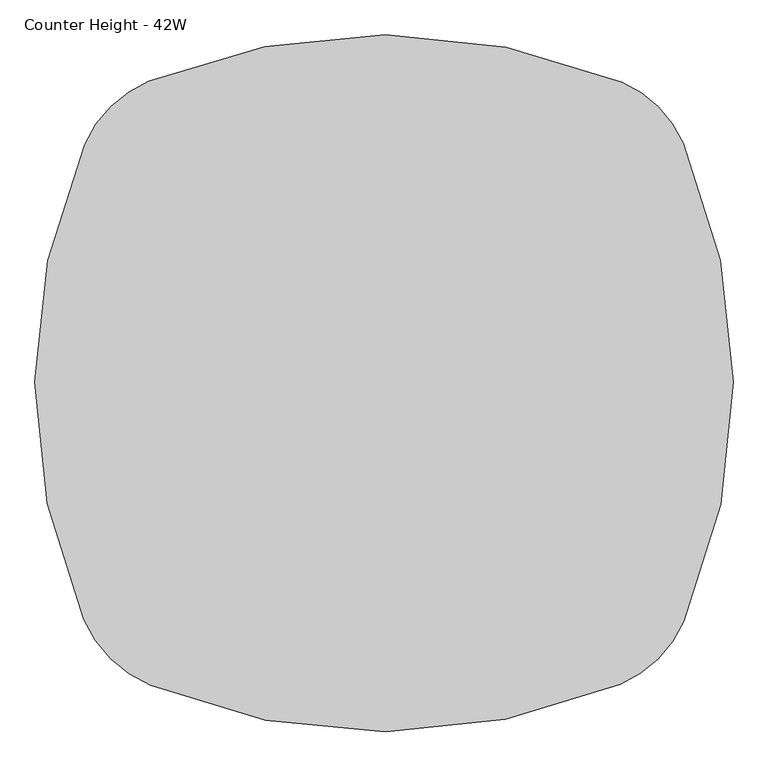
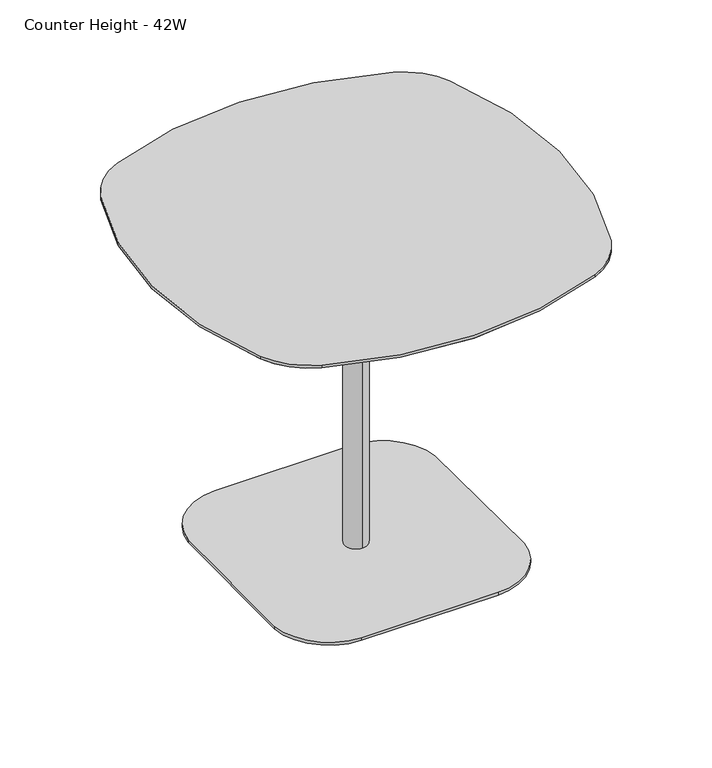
"""IFC4 building model written with IfcOpenShell, lengths in millimetres: furniture geometry, Steelcase Coalesse - Enea Lottus - Table - Cafe : Counter Height - 42W."""

from ifc_helpers import new_model, si_unit, point, frame, frame_2d, origin, origin_with_axes, place, context, project, spatial, polyline, circle_curve, trimmed, segment, composite_curve, outline, extrude, source, transform, mapped, element, save
from ifc_brep_helpers import plane_surface, cylinder_surface, revolved_surface, advanced_brep


def counter_height_42w_893c60b8(model_context):
    return source(origin(), model_context, "Body", "SolidModel", [
        advanced_brep(
        [(533.4, -563.2613798, 878.0223999), (533.4, -503.5386202, 878.0223999), (533.4, -356.9080839, 898.7439789), (533.4, -709.8919161, 898.7439789), (533.4, -533.4, 878.0223999), (533.4, -709.8919161, 901.6282142), (533.4, -356.9080839, 901.6282142), (533.4, -533.4, 901.6282142)],
        [
            (0, 1, circle_curve(frame((533.4, -533.4, 878.0223999), z_axis=(0.0, 0.0, 1.0), x_axis=(0.0, 1.0, 0.0)), 29.8613798)),
            (1, 2),
            (2, 3, circle_curve(frame((533.4, -533.4, 898.7439789), z_axis=(0.0, 0.0, -1.0), x_axis=(0.0, 1.0, 0.0)), 176.4919161)),
            (3, 0),
            (1, 0, circle_curve(frame((533.4, -533.4, 878.0223999), z_axis=(0.0, 0.0, 1.0), x_axis=(0.0, 1.0, 0.0)), 29.8613798)),
            (3, 2, circle_curve(frame((533.4, -533.4, 898.7439789), z_axis=(0.0, 0.0, -1.0), x_axis=(0.0, 1.0, 0.0)), 176.4919161)),
            (4, 1),
            (0, 4),
            (5, 6, circle_curve(frame((533.4, -533.4, 901.6282142), z_axis=(0.0, 0.0, 1.0), x_axis=(0.0, 1.0, 0.0)), 176.4919161)),
            (6, 7),
            (7, 5),
            (6, 5, circle_curve(frame((533.4, -533.4, 901.6282142), z_axis=(0.0, 0.0, 1.0), x_axis=(0.0, 1.0, 0.0)), 176.4919161)),
            (2, 6),
            (5, 3),
        ],
        [
            revolved_surface(polyline([(533.4, -356.9080839, 898.7439789), (533.4, -503.5386202, 878.0223999)]), (533.4, -533.4, 889.825307), (0.0, 0.0, -1.0)),
            plane_surface(frame((533.4, -533.4, 878.0223999), z_axis=(0.0, 0.0, -1.0), x_axis=(0.0, 1.0, 0.0))),
            plane_surface(frame((533.4, -533.4, 901.6282142), z_axis=(0.0, 0.0, 1.0), x_axis=(0.0, 1.0, 0.0))),
            cylinder_surface(frame((533.4, -533.4, 889.825307), z_axis=(0.0, 0.0, -1.0), x_axis=(0.0, 1.0, 0.0)), 176.4919161),
        ],
        [
            (0, [[1, 2, 3, 4]]),
            (0, [[5, -4, 6, -2]]),
            (1, [[7, -1, 8]]),
            (1, [[-8, -5, -7]]),
            (2, [[9, 10, 11]]),
            (2, [[12, -11, -10]]),
            (3, [[-3, 13, -9, 14]]),
            (3, [[-6, -14, -12, -13]]),
        ],
    ),
        extrude(outline(composite_curve([segment(trimmed(circle_curve(frame_2d((533.4002907, -132.0971576)), 934.4798328), [point((894.0788189, -994.1665036))], [point((176.4279712, -995.7077881))], False, "CARTESIAN"), True, "CONTINUOUS"), segment(trimmed(circle_curve(frame_2d((249.1991799, -819.6549517)), 190.5), [point((176.4279712, -995.7077881))], [point((74.2852347, -895.1225724))], False, "CARTESIAN"), True, "CONTINUOUS"), segment(trimmed(circle_curve(frame_2d((912.6618205, -533.4002059)), 913.0817982), [point((74.2852347, -895.1225724))], [point((75.6122215, -168.6176147))], False, "CARTESIAN"), True, "CONTINUOUS"), segment(trimmed(circle_curve(frame_2d((243.9625421, -241.9839555)), 183.6421804), [point((75.6122215, -168.6176147))], [point((173.954065, -72.2098009))], False, "CARTESIAN"), True, "CONTINUOUS"), segment(trimmed(circle_curve(frame_2d((533.4002422, -943.8852526)), 942.8783842), [point((173.954065, -72.2098009))], [point((896.1434301, -73.5766711))], False, "CARTESIAN"), True, "CONTINUOUS"), segment(trimmed(circle_curve(frame_2d((828.0206012, -237.0198029)), 177.0716724), [point((896.1434301, -73.5766711))], [point((990.4141681, -166.4315138))], False, "CARTESIAN"), True, "CONTINUOUS"), segment(trimmed(circle_curve(frame_2d((146.4765745, -533.2693878)), 920.2177394), [point((990.4141681, -166.4315138))], [point((991.3180264, -898.0208223))], False, "CARTESIAN"), True, "CONTINUOUS"), segment(trimmed(circle_curve(frame_2d((823.5476668, -825.5877295)), 182.7387383), [point((991.3180264, -898.0208223))], [point((894.0788189, -994.1665036))], False, "CARTESIAN"), True, "CONTINUOUS")], self_intersect=False)), frame((0.0, 0.0, 906.847009), z_axis=(0.0, 0.0, 1.0), x_axis=(1.0, 0.0, 0.0)), (0.0, 0.0, 1.0), 7.552991),
        advanced_brep(
        [(889.1770359, -982.4505945, 901.6282142), (181.2793852, -983.9709323, 901.6282142), (85.9461643, -890.0913977, 901.6282142), (87.2546942, -173.6913539, 901.6282142), (178.795587, -83.9507406, 901.6282142), (891.2574994, -85.2991999, 901.6282142), (978.7669166, -171.4942732, 901.6282142), (979.6583007, -892.986858, 901.6282142), (894.0788189, -994.1665036, 906.847009), (991.3180264, -898.0208223, 906.847009), (990.4141681, -166.4315138, 906.847009), (896.1434301, -73.5766711, 906.847009), (173.954065, -72.2098009, 906.847009), (75.6122215, -168.6176147, 906.847009), (74.2852347, -895.1225724, 906.847009), (176.4279712, -995.7077881, 906.847009)],
        [
            (0, 1, circle_curve(frame((533.4002907, -132.0971576, 901.6282142), z_axis=(0.0, 0.0, -1.0), x_axis=(0.385967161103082, -0.9225125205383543, 0.0)), 921.7798328)),
            (1, 2, circle_curve(frame((249.1991799, -819.6549517, 901.6282142), z_axis=(0.0, 0.0, -1.0), x_axis=(-0.3820010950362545, -0.9241618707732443, 0.0)), 177.8)),
            (2, 3, circle_curve(frame((912.6618205, -533.4002059, 901.6282142), z_axis=(0.0, 0.0, -1.0), x_axis=(-0.9181834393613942, -0.396155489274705, 0.0)), 900.3817982)),
            (3, 4, circle_curve(frame((243.9625421, -241.9839555, 901.6282142), z_axis=(0.0, 0.0, -1.0), x_axis=(-0.9167301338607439, 0.3995070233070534, 0.0)), 170.9421804)),
            (4, 5, circle_curve(frame((533.4002422, -943.8852526, 901.6282142), z_axis=(0.0, 0.0, -1.0), x_axis=(-0.38122220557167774, 0.9244834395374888, 0.0)), 930.1783842)),
            (5, 6, circle_curve(frame((828.0206012, -237.0198029, 901.6282142), z_axis=(0.0, 0.0, -1.0), x_axis=(0.38471895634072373, 0.9230337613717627, 0.0)), 164.3716724)),
            (6, 7, circle_curve(frame((146.4765745, -533.2693878, 901.6282142), z_axis=(0.0, 0.0, -1.0), x_axis=(0.9171064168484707, 0.3986424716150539, 0.0)), 907.5177394)),
            (7, 0, circle_curve(frame((823.5476668, -825.5877295, 901.6282142), z_axis=(0.0, 0.0, -1.0), x_axis=(0.9180886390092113, -0.3963751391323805, 0.0)), 170.0387383)),
            (8, 9, circle_curve(frame((823.5476668, -825.5877295, 906.847009), z_axis=(0.0, 0.0, 1.0), x_axis=(0.9180886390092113, -0.3963751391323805, 0.0)), 182.7387383)),
            (9, 10, circle_curve(frame((146.4765745, -533.2693878, 906.847009), z_axis=(0.0, 0.0, 1.0), x_axis=(0.9171064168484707, 0.3986424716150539, 0.0)), 920.2177394)),
            (10, 11, circle_curve(frame((828.0206012, -237.0198029, 906.847009), z_axis=(0.0, 0.0, 1.0), x_axis=(0.38471895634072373, 0.9230337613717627, 0.0)), 177.0716724)),
            (11, 12, circle_curve(frame((533.4002422, -943.8852526, 906.847009), z_axis=(0.0, 0.0, 1.0), x_axis=(-0.38122220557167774, 0.9244834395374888, 0.0)), 942.8783842)),
            (12, 13, circle_curve(frame((243.9625421, -241.9839555, 906.847009), z_axis=(0.0, 0.0, 1.0), x_axis=(-0.9167301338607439, 0.3995070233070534, 0.0)), 183.6421804)),
            (13, 14, circle_curve(frame((912.6618205, -533.4002059, 906.847009), z_axis=(0.0, 0.0, 1.0), x_axis=(-0.9181834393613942, -0.396155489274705, 0.0)), 913.0817982)),
            (14, 15, circle_curve(frame((249.1991799, -819.6549517, 906.847009), z_axis=(0.0, 0.0, 1.0), x_axis=(-0.3820010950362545, -0.9241618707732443, 0.0)), 190.5)),
            (15, 8, circle_curve(frame((533.4002907, -132.0971576, 906.847009), z_axis=(0.0, 0.0, 1.0), x_axis=(0.385967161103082, -0.9225125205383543, 0.0)), 934.4798328)),
            (15, 1),
            (0, 8),
            (14, 2),
            (13, 3),
            (12, 4),
            (11, 5),
            (10, 6),
            (9, 7),
        ],
        [
            plane_surface(frame((534.0169479, -532.9919188, 901.6282142), z_axis=(0.0, 0.0, -1.0), x_axis=(0.9225125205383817, 0.38596716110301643, 0.0))),
            plane_surface(frame((534.029242, -532.9816609, 906.847009), z_axis=(0.0, 0.0, 1.0), x_axis=(0.9225125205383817, 0.38596716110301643, 0.0))),
            revolved_surface(polyline([(889.1770359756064, -982.4505946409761, 901.6282142), (894.0788189, -994.1665035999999, 906.847009)]), (533.4002907, -132.0971576, 522.8424016), (0.0, 0.0, 1.0)),
            revolved_surface(polyline([(181.2793850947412, -983.9709323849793, 901.6282142), (176.4279712, -995.7077881, 906.847009)]), (249.1991799, -819.6549517, 828.5650867), (0.0, 0.0, 1.0)),
            revolved_surface(polyline([(85.94616432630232, -890.0913977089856, 901.6282142), (74.28523470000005, -895.1225724, 906.847009)]), (912.6618205, -533.4002059, 531.6354687), (0.0, 0.0, 1.0)),
            revolved_surface(polyline([(87.25469414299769, -173.69135386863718, 901.6282142), (75.6122215, -168.6176147, 906.847009)]), (243.9625421, -241.9839555, 831.3831617), (0.0, 0.0, 1.0)),
            revolved_surface(polyline([(178.79558698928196, -83.95074053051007, 901.6282142), (173.954065, -72.2098009, 906.847009)]), (533.4002422, -943.8852526, 519.3911956), (0.0, 0.0, 1.0)),
            revolved_surface(polyline([(891.2574993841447, -85.29919981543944, 901.6282142), (896.1434301, -73.5766711, 906.847009)]), (828.0206012, -237.0198029, 834.0831722), (0.0, 0.0, 1.0)),
            revolved_surface(polyline([(978.7669166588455, -171.49427316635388, 901.6282142), (990.4141681, -166.4315138, 906.847009)]), (146.4765745, -533.2693878, 528.7031055), (0.0, 0.0, 1.0)),
            revolved_surface(polyline([(979.6583007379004, -892.9868580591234, 901.6282142), (991.3180264, -898.0208223, 906.847009)]), (823.5476668, -825.5877295, 831.754412), (0.0, 0.0, 1.0)),
        ],
        [
            (0, [[1, 2, 3, 4, 5, 6, 7, 8]]),
            (1, [[9, 10, 11, 12, 13, 14, 15, 16]]),
            (2, [[-16, 17, -1, 18]]),
            (3, [[-15, 19, -2, -17]]),
            (4, [[-14, 20, -3, -19]]),
            (5, [[-13, 21, -4, -20]]),
            (6, [[-12, 22, -5, -21]]),
            (7, [[-11, 23, -6, -22]]),
            (8, [[-10, 24, -7, -23]]),
            (9, [[-9, -18, -8, -24]]),
        ],
    ),
        extrude(outline(composite_curve([segment(trimmed(circle_curve(frame_2d((290.3573668, -290.3557788)), 14.5931535), [point((304.9505203, -290.3557788))], [point((275.7642134, -290.3557788))], False, "CARTESIAN"), True, "CONTINUOUS"), segment(trimmed(circle_curve(frame_2d((290.3573668, -290.3557788)), 14.5931535), [point((275.7642134, -290.3557788))], [point((304.9505203, -290.3557788))], False, "CARTESIAN"), True, "CONTINUOUS")], self_intersect=False)), origin_with_axes(), (0.0, 0.0, 1.0), 12.0681503),
        extrude(outline(composite_curve([segment(trimmed(circle_curve(frame_2d((776.4426332, -290.3557788)), 14.5931535), [point((791.0357866, -290.3557788))], [point((761.8494797, -290.3557788))], False, "CARTESIAN"), True, "CONTINUOUS"), segment(trimmed(circle_curve(frame_2d((776.4426332, -290.3557788)), 14.5931535), [point((761.8494797, -290.3557788))], [point((791.0357866, -290.3557788))], False, "CARTESIAN"), True, "CONTINUOUS")], self_intersect=False)), origin_with_axes(), (0.0, 0.0, 1.0), 12.0681503),
        extrude(outline(composite_curve([segment(trimmed(circle_curve(frame_2d((290.3573668, -776.4442212)), 14.5931535), [point((304.9505203, -776.4442212))], [point((275.7642134, -776.4442212))], False, "CARTESIAN"), True, "CONTINUOUS"), segment(trimmed(circle_curve(frame_2d((290.3573668, -776.4442212)), 14.5931535), [point((275.7642134, -776.4442212))], [point((304.9505203, -776.4442212))], False, "CARTESIAN"), True, "CONTINUOUS")], self_intersect=False)), origin_with_axes(), (0.0, 0.0, 1.0), 12.0681503),
        extrude(outline(composite_curve([segment(trimmed(circle_curve(frame_2d((776.4426332, -776.4442212)), 14.5931535), [point((791.0357866, -776.4442212))], [point((761.8494797, -776.4442212))], False, "CARTESIAN"), True, "CONTINUOUS"), segment(trimmed(circle_curve(frame_2d((776.4426332, -776.4442212)), 14.5931535), [point((761.8494797, -776.4442212))], [point((791.0357866, -776.4442212))], False, "CARTESIAN"), True, "CONTINUOUS")], self_intersect=False)), origin_with_axes(), (0.0, 0.0, 1.0), 12.0681503),
        extrude(outline(composite_curve([segment(trimmed(circle_curve(frame_2d((713.1607189, -344.3533124)), 146.05), [point((715.9264288, -198.3295015))], [point((858.4001859, -328.9877752))], False, "CARTESIAN"), True, "CONTINUOUS"), segment(trimmed(circle_curve(frame_2d((-1169.1172342, -543.4879728)), 2038.8323187), [point((858.4001859, -328.9877752))], [point((861.1554242, -730.1163632))], False, "CARTESIAN"), True, "CONTINUOUS"), segment(trimmed(circle_curve(frame_2d((709.3952474, -716.1661396)), 152.4), [point((861.1554242, -730.1163632))], [point((712.2203938, -868.5399515))], False, "CARTESIAN"), True, "CONTINUOUS"), segment(trimmed(circle_curve(frame_2d((540.0481103, 8417.5442651)), 9287.6801932), [point((712.2203938, -868.5399515))], [point((354.3338209, -868.2789927))], False, "CARTESIAN"), True, "CONTINUOUS"), segment(trimmed(circle_curve(frame_2d((357.3811758, -715.9094628)), 152.4), [point((354.3338209, -868.2789927))], [point((205.6190943, -729.8389502))], False, "CARTESIAN"), True, "CONTINUOUS"), segment(trimmed(circle_curve(frame_2d((2235.9172342, -543.4879728)), 2038.8323187), [point((205.6190943, -729.8389502))], [point((207.743094, -335.2888363))], False, "CARTESIAN"), True, "CONTINUOUS"), segment(trimmed(circle_curve(frame_2d((359.3464093, -350.8514445)), 152.4), [point((207.743094, -335.2888363))], [point((356.3318396, -198.4812624))], False, "CARTESIAN"), True, "CONTINUOUS"), segment(trimmed(circle_curve(frame_2d((540.0481103, -9484.3442651)), 9287.6801932), [point((356.3318396, -198.4812624))], [point((715.9264288, -198.3295015))], False, "CARTESIAN"), True, "CONTINUOUS")], self_intersect=False)), frame((0.0, 0.0, 12.0681503), z_axis=(0.0, 0.0, 1.0), x_axis=(1.0, 0.0, 0.0)), (0.0, 0.0, 1.0), 7.874),
        extrude(outline(composite_curve([segment(trimmed(circle_curve(frame_2d((533.4, -533.4)), 29.8613798), [point((533.4, -563.2613798))], [point((533.4, -503.5386202))], False, "CARTESIAN"), True, "CONTINUOUS"), segment(trimmed(circle_curve(frame_2d((533.4, -533.4)), 29.8613798), [point((533.4, -503.5386202))], [point((533.4, -563.2613798))], False, "CARTESIAN"), True, "CONTINUOUS")], self_intersect=False)), frame((0.0, 0.0, 19.9421503), z_axis=(0.0, 0.0, 1.0), x_axis=(1.0, 0.0, 0.0)), (0.0, 0.0, 1.0), 858.0802496),
    ])


if __name__ == "__main__":
    model = new_model("IFC4")
    model_context = context("Model", 3, world=origin())
    ifc_project = project(units=[si_unit("LENGTHUNIT", "METRE", prefix="MILLI")], contexts=[model_context])
    site = spatial("IfcSite", under=ifc_project)
    building = spatial("IfcBuilding", under=site)
    placement = place(None, origin())
    counter_height_42w_shape = counter_height_42w_893c60b8(model_context)
    element("IfcFurniture", 1, ObjectType="Steelcase Coalesse - Enea Lottus - Table - Cafe : Counter Height - 42W", at=placement, inside=building, context=model_context, shape_type="MappedRepresentation", body=[
        mapped(counter_height_42w_shape, transform((0.0, 0.0, 0.0), x_axis=(1.0, 0.0, 0.0), y_axis=(0.0, 1.0, 0.0), z_axis=(0.0, 0.0, 1.0))),
    ])
    save(model, "model.ifc")
